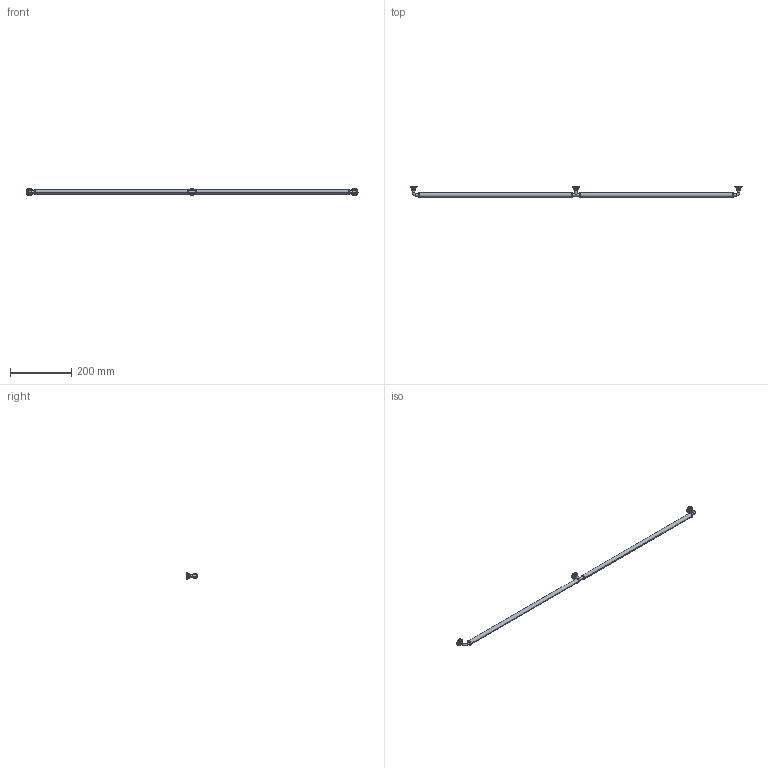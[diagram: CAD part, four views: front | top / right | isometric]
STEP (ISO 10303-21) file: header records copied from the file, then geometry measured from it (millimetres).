
FILE_DESCRIPTION( ( '' ), '1' );
FILE_NAME( 'D:/1.AUTOCAD EXPORT/Group 10/sheet_10_1/9132280.stp', '2013-10-21T06:44:08', ( '' ), ( '' ), ' ', ' ', ' ' );
FILE_SCHEMA( ( 'automotive_design' ) );
Length unit declared in the file: millimetre
Products named in the file (1): 1
Bounding box: 1088 x 35 x 23 mm (x, y, z)
Volume: 167124 mm3; surface area: 51754.9 mm2
Topology: 1 solids, 1 shells, 138 faces, 329 edges, 199 vertices
Faces by surface type: torus 62, cone 36, cylinder 28, plane 12
Entity records: 7923 total; most frequent: DIRECTION 863, CARTESIAN_POINT 745, STYLED_ITEM 667, PRESENTATION_STYLE_ASSIGNMENT 667, COLOUR_RGB 667, ORIENTED_EDGE 658, AXIS2_PLACEMENT_3D 399, EDGE_CURVE 329
